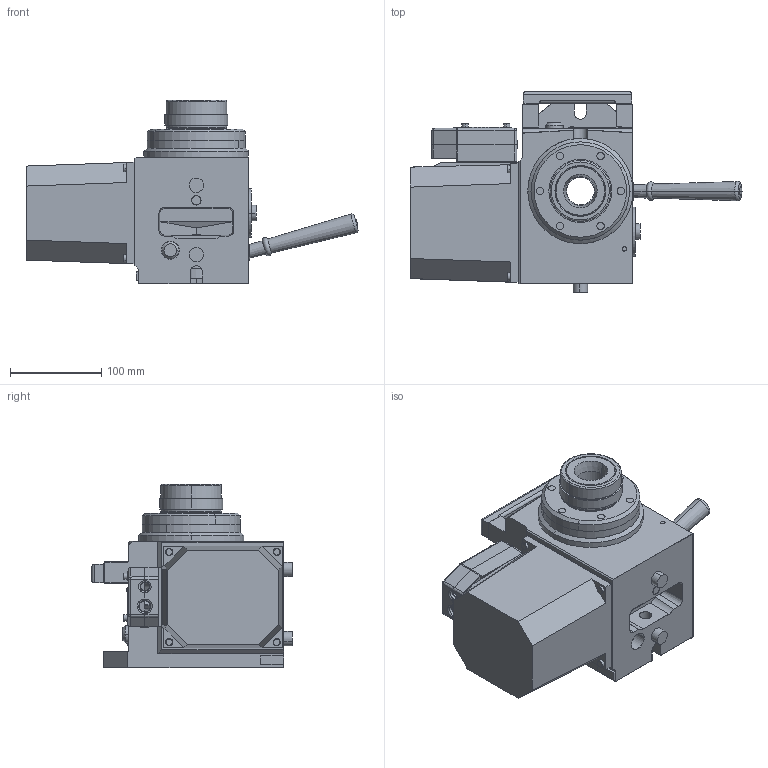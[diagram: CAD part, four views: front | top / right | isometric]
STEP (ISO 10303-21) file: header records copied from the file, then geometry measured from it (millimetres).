
FILE_DESCRIPTION (( 'STEP AP214' ), '1' );
FILE_NAME ('HA5C_STEP_11-2019.STEP', '2019-11-05T19:09:11', ( '' ), ( '' ), 'SwSTEP 2.0', 'SolidWorks 2019', '' );
FILE_SCHEMA (( 'AUTOMOTIVE_DESIGN' ));
Length unit declared in the file: inch
Products named in the file (4): Group2^30-8741_defeature; Group1^30-8741_defeature; HA5C_STEP_11-2019; 10000062322-1^30-8741_defeature
Assembly tree (3 placements, depth 2):
  HA5C_STEP_11-2019
    Group1^30-8741_defeature
    Group2^30-8741_defeature
    10000062322-1^30-8741_defeature
Bounding box: 364.72 x 220.34 x 201.24 mm (x, y, z)
Volume: 4531764.3 mm3; surface area: 483409.9 mm2
Topology: 11 solids, 12 shells, 2114 faces, 5241 edges, 3260 vertices
Faces by surface type: plane 944, cylinder 688, torus 230, cone 202, bspline 35, sphere 15
Entity records: 82324 total; most frequent: CARTESIAN_POINT 21216, DIRECTION 10702, ORIENTED_EDGE 10450, EDGE_CURVE 5225, AXIS2_PLACEMENT_3D 4021, VERTEX_POINT 3256, VECTOR 2660, LINE 2660
